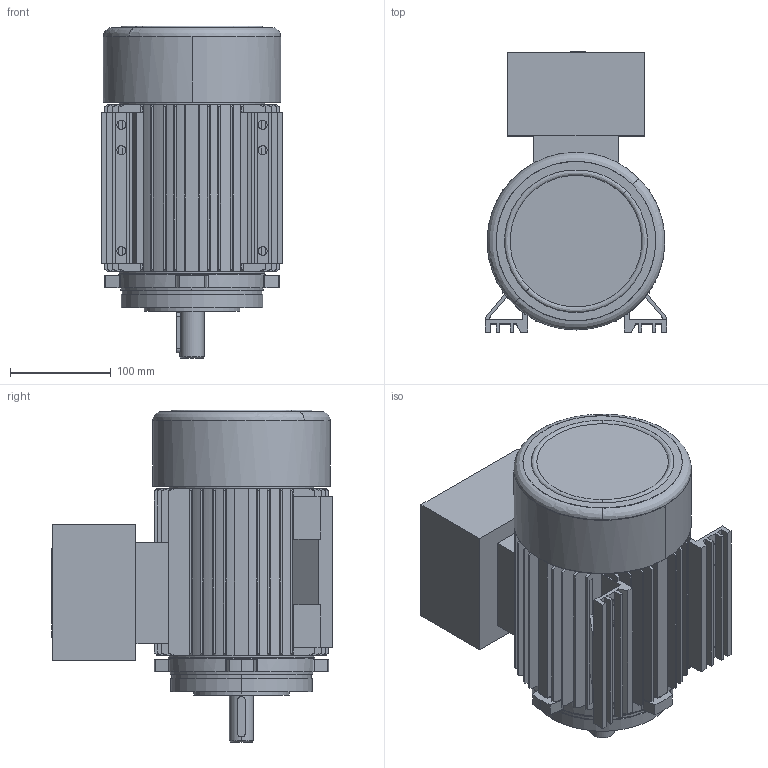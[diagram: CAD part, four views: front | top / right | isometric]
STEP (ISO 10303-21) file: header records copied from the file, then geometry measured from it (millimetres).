
FILE_DESCRIPTION (( 'STEP AP214' ), '1' );
FILE_NAME ('20.17499-F 5AT 90L B34_F115 Exde STANDK.STEP', '2018-11-15T10:13:40', ( '' ), ( '' ), 'SwSTEP 2.0', 'SolidWorks 2018', '' );
FILE_SCHEMA (( 'AUTOMOTIVE_DESIGN' ));
Length unit declared in the file: millimetre
Products named in the file (1): 20.17499-F 5AT 90L B34_F115 Exde STANDK
Bounding box: 180 x 278 x 329 mm (x, y, z)
Volume: 3844987.6 mm3; surface area: 735851.9 mm2
Topology: 4 solids, 4 shells, 744 faces, 1969 edges, 1277 vertices
Faces by surface type: plane 359, cylinder 224, cone 153, bspline 8
Entity records: 30166 total; most frequent: CARTESIAN_POINT 5418, ORIENTED_EDGE 3890, DIRECTION 3815, EDGE_CURVE 1945, AXIS2_PLACEMENT_3D 1370, VERTEX_POINT 1277, VECTOR 1075, LINE 1075
